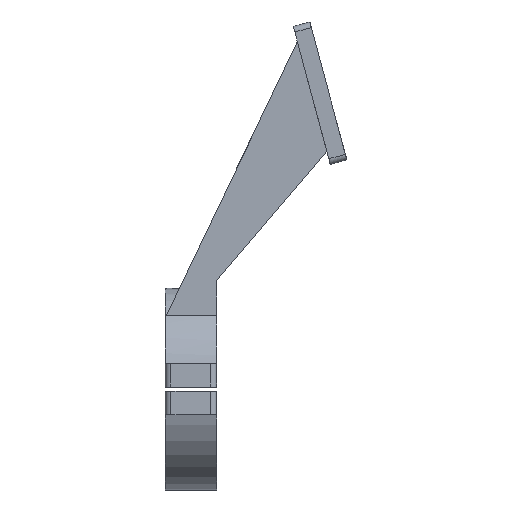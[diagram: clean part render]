
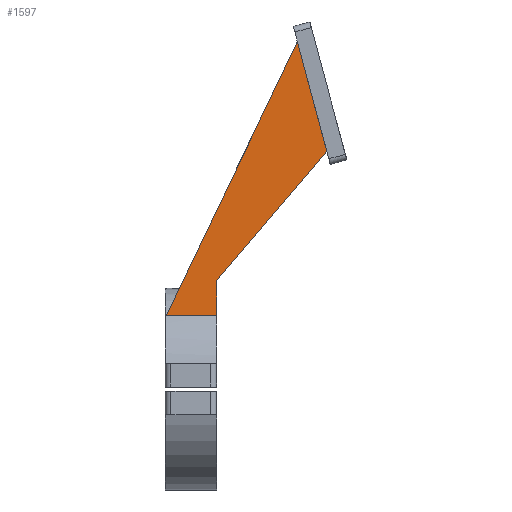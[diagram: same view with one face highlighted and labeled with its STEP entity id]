
A CAD part, front view. The second image highlights one B-rep face of the part: STEP entity #1597.
In plain terms, the highlighted planar face has unit normal (0, -1, 0).
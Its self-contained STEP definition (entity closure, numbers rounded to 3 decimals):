
#55 = CYLINDRICAL_SURFACE('',#56,35.3);
#56 = AXIS2_PLACEMENT_3D('',#57,#58,#59);
#57 = CARTESIAN_POINT('',(-35.,0.,0.));
#58 = DIRECTION('',(-1.,-0.,-0.));
#59 = DIRECTION('',(0.,1.,0.));
#329 = PLANE('',#330);
#330 = AXIS2_PLACEMENT_3D('',#331,#332,#333);
#331 = CARTESIAN_POINT('',(-17.,0.,0.)
  );
#332 = DIRECTION('',(1.,0.,0.));
#333 = DIRECTION('',(-0.,0.,1.));
#476 = VERTEX_POINT('',#477);
#477 = CARTESIAN_POINT('',(-34.575,-24.,25.886));
#495 = PLANE('',#496);
#496 = AXIS2_PLACEMENT_3D('',#497,#498,#499);
#497 = CARTESIAN_POINT('',(11.668,-20.,122.378));
#498 = DIRECTION('',(0.902,0.,-0.432));
#499 = DIRECTION('',(-0.432,0.,-0.902));
#507 = EDGE_CURVE('',#508,#476,#510,.T.);
#508 = VERTEX_POINT('',#509);
#509 = CARTESIAN_POINT('',(-17.,-24.,25.886));
#510 = SURFACE_CURVE('',#511,(#515,#521),.PCURVE_S1.);
#511 = LINE('',#512,#513);
#512 = CARTESIAN_POINT('',(-35.,-24.,25.886));
#513 = VECTOR('',#514,1.);
#514 = DIRECTION('',(-1.,-0.,-0.));
#515 = PCURVE('',#55,#516);
#516 = DEFINITIONAL_REPRESENTATION('',(#517),#520);
#517 = B_SPLINE_CURVE_WITH_KNOTS('',1,(#518,#519),.UNSPECIFIED.,.F.,.F.,
  (2,2),(-18.,0.),.PIECEWISE_BEZIER_KNOTS.);
#518 = CARTESIAN_POINT('',(-2.318,-18.));
#519 = CARTESIAN_POINT('',(-2.318,0.));
#520 = ( GEOMETRIC_REPRESENTATION_CONTEXT(2) 
PARAMETRIC_REPRESENTATION_CONTEXT() REPRESENTATION_CONTEXT('2D SPACE',''
  ) );
#521 = PCURVE('',#522,#527);
#522 = PLANE('',#523);
#523 = AXIS2_PLACEMENT_3D('',#524,#525,#526);
#524 = CARTESIAN_POINT('',(-4.701,-24.,69.42));
#525 = DIRECTION('',(-0.,-1.,-0.));
#526 = DIRECTION('',(0.,0.,-1.));
#527 = DEFINITIONAL_REPRESENTATION('',(#528),#531);
#528 = B_SPLINE_CURVE_WITH_KNOTS('',1,(#529,#530),.UNSPECIFIED.,.F.,.F.,
  (2,2),(-18.,0.),.PIECEWISE_BEZIER_KNOTS.);
#529 = CARTESIAN_POINT('',(43.534,-12.299));
#530 = CARTESIAN_POINT('',(43.534,-30.299));
#531 = ( GEOMETRIC_REPRESENTATION_CONTEXT(2) 
PARAMETRIC_REPRESENTATION_CONTEXT() REPRESENTATION_CONTEXT('2D SPACE',''
  ) );
#1526 = VERTEX_POINT('',#1527);
#1527 = CARTESIAN_POINT('',(-17.,-24.,38.));
#1541 = PLANE('',#1542);
#1542 = AXIS2_PLACEMENT_3D('',#1543,#1544,#1545);
#1543 = CARTESIAN_POINT('',(-17.,-20.,38.));
#1544 = DIRECTION('',(-0.761,0.,0.649));
#1545 = DIRECTION('',(0.649,0.,0.761));
#1553 = EDGE_CURVE('',#508,#1526,#1554,.T.);
#1554 = SURFACE_CURVE('',#1555,(#1559,#1566),.PCURVE_S1.);
#1555 = LINE('',#1556,#1557);
#1556 = CARTESIAN_POINT('',(-17.,-24.,25.));
#1557 = VECTOR('',#1558,1.);
#1558 = DIRECTION('',(0.,0.,1.));
#1559 = PCURVE('',#329,#1560);
#1560 = DEFINITIONAL_REPRESENTATION('',(#1561),#1565);
#1561 = LINE('',#1562,#1563);
#1562 = CARTESIAN_POINT('',(25.,24.));
#1563 = VECTOR('',#1564,1.);
#1564 = DIRECTION('',(1.,0.));
#1565 = ( GEOMETRIC_REPRESENTATION_CONTEXT(2) 
PARAMETRIC_REPRESENTATION_CONTEXT() REPRESENTATION_CONTEXT('2D SPACE',''
  ) );
#1566 = PCURVE('',#522,#1567);
#1567 = DEFINITIONAL_REPRESENTATION('',(#1568),#1572);
#1568 = LINE('',#1569,#1570);
#1569 = CARTESIAN_POINT('',(44.42,-12.299));
#1570 = VECTOR('',#1571,1.);
#1571 = DIRECTION('',(-1.,0.));
#1572 = ( GEOMETRIC_REPRESENTATION_CONTEXT(2) 
PARAMETRIC_REPRESENTATION_CONTEXT() REPRESENTATION_CONTEXT('2D SPACE',''
  ) );
#1597 = ADVANCED_FACE('',(#1598),#522,.T.);
#1598 = FACE_BOUND('',#1599,.T.);
#1599 = EDGE_LOOP('',(#1600,#1623,#1624,#1625,#1648));
#1600 = ORIENTED_EDGE('',*,*,#1601,.T.);
#1601 = EDGE_CURVE('',#1602,#476,#1604,.T.);
#1602 = VERTEX_POINT('',#1603);
#1603 = CARTESIAN_POINT('',(11.336,-24.,121.686));
#1604 = SURFACE_CURVE('',#1605,(#1609,#1616),.PCURVE_S1.);
#1605 = LINE('',#1606,#1607);
#1606 = CARTESIAN_POINT('',(11.668,-24.,122.378));
#1607 = VECTOR('',#1608,1.);
#1608 = DIRECTION('',(-0.432,0.,-0.902));
#1609 = PCURVE('',#522,#1610);
#1610 = DEFINITIONAL_REPRESENTATION('',(#1611),#1615);
#1611 = LINE('',#1612,#1613);
#1612 = CARTESIAN_POINT('',(-52.958,16.369));
#1613 = VECTOR('',#1614,1.);
#1614 = DIRECTION('',(0.902,-0.432));
#1615 = ( GEOMETRIC_REPRESENTATION_CONTEXT(2) 
PARAMETRIC_REPRESENTATION_CONTEXT() REPRESENTATION_CONTEXT('2D SPACE',''
  ) );
#1616 = PCURVE('',#495,#1617);
#1617 = DEFINITIONAL_REPRESENTATION('',(#1618),#1622);
#1618 = LINE('',#1619,#1620);
#1619 = CARTESIAN_POINT('',(-0.,-4.));
#1620 = VECTOR('',#1621,1.);
#1621 = DIRECTION('',(1.,0.));
#1622 = ( GEOMETRIC_REPRESENTATION_CONTEXT(2) 
PARAMETRIC_REPRESENTATION_CONTEXT() REPRESENTATION_CONTEXT('2D SPACE',''
  ) );
#1623 = ORIENTED_EDGE('',*,*,#507,.F.);
#1624 = ORIENTED_EDGE('',*,*,#1553,.T.);
#1625 = ORIENTED_EDGE('',*,*,#1626,.T.);
#1626 = EDGE_CURVE('',#1526,#1627,#1629,.T.);
#1627 = VERTEX_POINT('',#1628);
#1628 = CARTESIAN_POINT('',(21.627,-24.,83.28));
#1629 = SURFACE_CURVE('',#1630,(#1634,#1641),.PCURVE_S1.);
#1630 = LINE('',#1631,#1632);
#1631 = CARTESIAN_POINT('',(-17.,-24.,38.));
#1632 = VECTOR('',#1633,1.);
#1633 = DIRECTION('',(0.649,0.,0.761));
#1634 = PCURVE('',#522,#1635);
#1635 = DEFINITIONAL_REPRESENTATION('',(#1636),#1640);
#1636 = LINE('',#1637,#1638);
#1637 = CARTESIAN_POINT('',(31.42,-12.299));
#1638 = VECTOR('',#1639,1.);
#1639 = DIRECTION('',(-0.761,0.649));
#1640 = ( GEOMETRIC_REPRESENTATION_CONTEXT(2) 
PARAMETRIC_REPRESENTATION_CONTEXT() REPRESENTATION_CONTEXT('2D SPACE',''
  ) );
#1641 = PCURVE('',#1541,#1642);
#1642 = DEFINITIONAL_REPRESENTATION('',(#1643),#1647);
#1643 = LINE('',#1644,#1645);
#1644 = CARTESIAN_POINT('',(0.,-4.));
#1645 = VECTOR('',#1646,1.);
#1646 = DIRECTION('',(1.,0.));
#1647 = ( GEOMETRIC_REPRESENTATION_CONTEXT(2) 
PARAMETRIC_REPRESENTATION_CONTEXT() REPRESENTATION_CONTEXT('2D SPACE',''
  ) );
#1648 = ORIENTED_EDGE('',*,*,#1649,.F.);
#1649 = EDGE_CURVE('',#1602,#1627,#1650,.T.);
#1650 = SURFACE_CURVE('',#1651,(#1655,#1661),.PCURVE_S1.);
#1651 = LINE('',#1652,#1653);
#1652 = CARTESIAN_POINT('',(16.61,-24.,102.005));
#1653 = VECTOR('',#1654,1.);
#1654 = DIRECTION('',(0.259,0.,-0.966));
#1655 = PCURVE('',#522,#1656);
#1656 = DEFINITIONAL_REPRESENTATION('',(#1657),#1660);
#1657 = B_SPLINE_CURVE_WITH_KNOTS('',1,(#1658,#1659),.UNSPECIFIED.,.F.,
  .F.,(2,2),(-21.093,20.907),.PIECEWISE_BEZIER_KNOTS.);
#1658 = CARTESIAN_POINT('',(-52.958,15.851));
#1659 = CARTESIAN_POINT('',(-12.389,26.722));
#1660 = ( GEOMETRIC_REPRESENTATION_CONTEXT(2) 
PARAMETRIC_REPRESENTATION_CONTEXT() REPRESENTATION_CONTEXT('2D SPACE',''
  ) );
#1661 = PCURVE('',#1662,#1667);
#1662 = PLANE('',#1663);
#1663 = AXIS2_PLACEMENT_3D('',#1664,#1665,#1666);
#1664 = CARTESIAN_POINT('',(9.891,-27.,127.079));
#1665 = DIRECTION('',(0.966,0.,0.259));
#1666 = DIRECTION('',(0.259,0.,-0.966));
#1667 = DEFINITIONAL_REPRESENTATION('',(#1668),#1671);
#1668 = B_SPLINE_CURVE_WITH_KNOTS('',1,(#1669,#1670),.UNSPECIFIED.,.F.,
  .F.,(2,2),(-21.093,20.907),.PIECEWISE_BEZIER_KNOTS.);
#1669 = CARTESIAN_POINT('',(4.866,3.));
#1670 = CARTESIAN_POINT('',(46.866,3.));
#1671 = ( GEOMETRIC_REPRESENTATION_CONTEXT(2) 
PARAMETRIC_REPRESENTATION_CONTEXT() REPRESENTATION_CONTEXT('2D SPACE',''
  ) );
